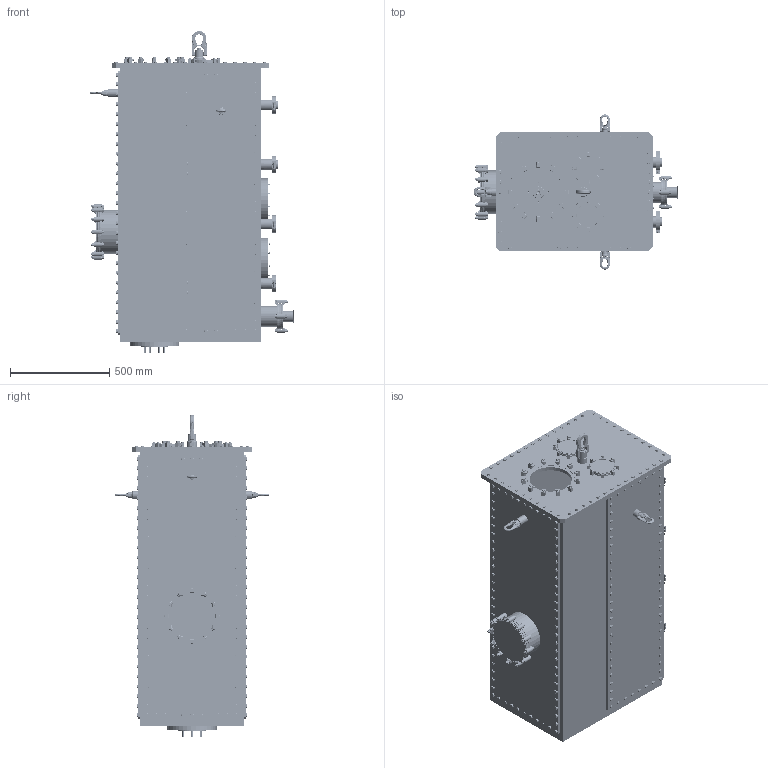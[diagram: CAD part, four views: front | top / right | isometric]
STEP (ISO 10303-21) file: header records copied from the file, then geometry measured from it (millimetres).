
FILE_DESCRIPTION(('CATIA V5 STEP Exchange','CAx-IF Rec.Pracs.--- Model Styling and Organization---1.4--- 2014-01-23','CAx-IF Rec.Pracs.---User Defined Attributes---1.3---2014-10-09'),'2;1');
FILE_NAME('P:\CARAMEL\100\1000\1000000_Ensemble enceinte a vide.stp','2025-05-21T13:34:44+00:00',('none'),('none'),'CATIA Version 5-6 Release 2017 SP4','CATIA V5 STEP AP214','none');
FILE_SCHEMA(('AUTOMOTIVE_DESIGN { 1 0 10303 214 1 1 1 1 }'));
Products named in the file (75): 1000000_Ensemble enceinte a vide; 1000002_Interface station de tests; 1000001_Structure enceinte a vide; 1000001_Structure enceinte à vide; Bride a souder ISO K DN100 pour Tube 104x2; BRIDE ISO-KF DN50; 1000004_Bride; Anneau de Centrage Interieur pour Bride ISO-KF DN50; Anneau de Centrage Inteieur pour Bride ISO-K et F DN100; Connecteur JAEGER 25 PTS KF 25; Assy_Root.2; M5W; WDS611-2007; nut_din_315-m5-cuzn-c; KF50C; kf50c-01_Duplicated_19.5; KF50C-02_Duplicated_21.8; nut_din_315-m5-cuzn-c_Duplicated_17.6; WDS611-2007_611-2007.1.2; M5W_Duplicated_16.9; kf50c-01; kf50c-01_Duplicated_18; KF50C-02; KF50C-02_Duplicated_20; Ensemble bride de fixation pour bride DN 100; Fixation pour bride DN 100; Vis H M8x35; Rondelle N8; Regroupement des Ensemble bride de fixation pour bride DN 100 sur Répétition circulaire.1; Regroupement des Ensemble bride de fixation pour bride DN 100 sur Répétition circulaire.2; Anneau de Centrage Inteieur pour Bride ISO-K et F DN100.2; 1000005_Ens Bride ISO K DN100 - ISO KF DN50; Obturateur ISO K DN100; 320KBL250 - Pince a Griffes Doubles DN63-250 ISO K; 1000003_Ens porte avant; 1000003_Bride; Embout long ISO K DN200 - Tube 219x3; Ens_Vis CHc M4-16 avec rondelle; Vis CHC M4x16.5; Rondelle N4.5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
Assembly tree (419 placements, depth 4):
  1000000_Ensemble enceinte a vide
    1000002_Interface station de tests
    1000001_Structure enceinte a vide
      1000001_Structure enceinte à vide
      Bride a souder ISO K DN100 pour Tube 104x2
      BRIDE ISO-KF DN50  x8
    1000004_Bride
    Anneau de Centrage Interieur pour Bride ISO-KF DN50  x8
    Anneau de Centrage Inteieur pour Bride ISO-K et F DN100  x2
    Connecteur JAEGER 25 PTS KF 25  x4
    Assy_Root.2  x8
      M5W
      WDS611-2007
      nut_din_315-m5-cuzn-c
      KF50C
        kf50c-01_Duplicated_19.5  x2
        KF50C-02_Duplicated_21.8  x2
        nut_din_315-m5-cuzn-c_Duplicated_17.6
        WDS611-2007_611-2007.1.2
        M5W_Duplicated_16.9
      kf50c-01
      kf50c-01_Duplicated_18
      KF50C-02
      KF50C-02_Duplicated_20
    Ensemble bride de fixation pour bride DN 100  x2
      Fixation pour bride DN 100
      Vis H M8x35
      Rondelle N8
    Regroupement des Ensemble bride de fixation pour bride DN 100 sur Répétition circulaire.1
      Ensemble bride de fixation pour bride DN 100  x7
        Fixation pour bride DN 100
        Vis H M8x35
        Rondelle N8
    Regroupement des Ensemble bride de fixation pour bride DN 100 sur Répétition circulaire.2
      Ensemble bride de fixation pour bride DN 100  x7
        Fixation pour bride DN 100
        Vis H M8x35
        Rondelle N8
    Anneau de Centrage Inteieur pour Bride ISO-K et F DN100.2
    1000005_Ens Bride ISO K DN100 - ISO KF DN50
      Obturateur ISO K DN100
      BRIDE ISO-KF DN50
    320KBL250 - Pince a Griffes Doubles DN63-250 ISO K  x5
    1000003_Ens porte avant
      1000003_Bride
      Embout long ISO K DN200 - Tube 219x3
    Ens_Vis CHc M4-16 avec rondelle  x2
      Vis CHC M4x16.5
      Rondelle N4.5
    1000006_Porte laterale  x2
    Anneaux de levage M6 0T15  x3
    Obturateur-V2 ISO K DN100  x2
    350BPR250 - Pince a Griffes DN160-250 ISO K
    Regroupement des 350BPR250 - Pince a Griffes DN160-250 ISO K sur Répétition circulaire.3
      350BPR250 - Pince a Griffes DN160-250 ISO K  x11
    Regroupement des Ens_Vis CHc M4-16 avec rondelle sur Répétition circulaire.4
      Ens_Vis CHc M4-16 avec rondelle  x7
        Vis CHC M4x16.5
        Rondelle N4.5
    Regroupement des Ens_Vis CHc M4-16 avec rondelle sur Répétition circulaire.5
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Bounding box: 1031.4 x 783 x 1623 mm (x, y, z)
Volume: 71163266.2 mm3; surface area: 12805655.1 mm2
Topology: 895 solids, 895 shells, 25983 faces, 62611 edges, 39187 vertices
Faces by surface type: cylinder 9029, plane 8058, cone 3088, bspline 2618, torus 1824, extrusion 992, sphere 374
Entity records: 175755 total; most frequent: CARTESIAN_POINT 59182, ORIENTED_EDGE 25770, DIRECTION 16418, EDGE_CURVE 12885, VERTEX_POINT 8254, AXIS2_PLACEMENT_3D 7899, EDGE_LOOP 6429, ADVANCED_FACE 5261
